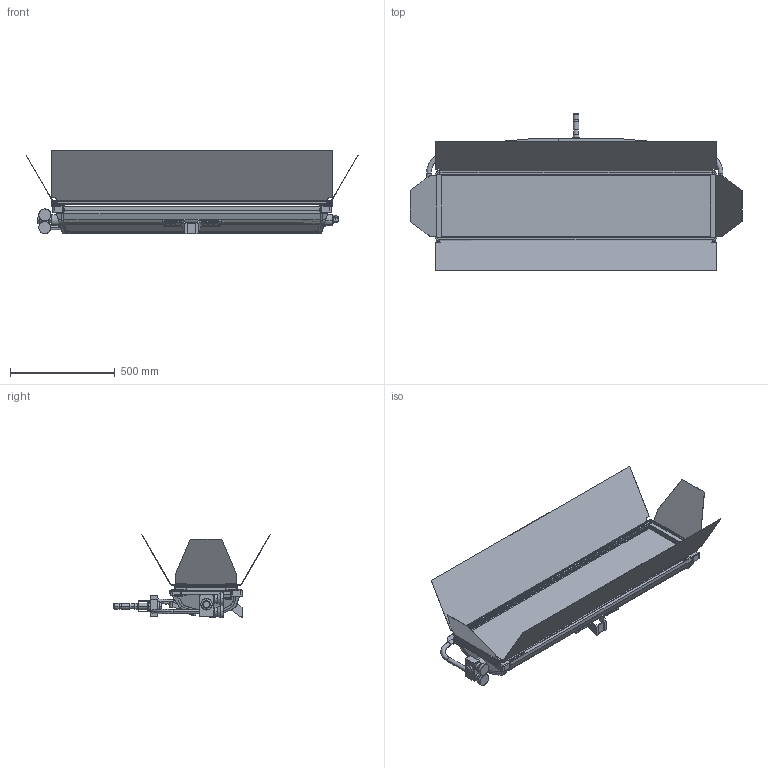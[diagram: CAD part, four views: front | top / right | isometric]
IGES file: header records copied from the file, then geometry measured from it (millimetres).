
Start section: SolidWorks IGES file using analytic representation for surfaces
Global section: file name: L:\32000\4. Serie\S120 reduziert\S120 reduziert_Transfer\S120-C_PO.IGS; native system: SolidWorks 2016; preprocessor: SolidWorks 2016; author: huttner; date: 160830.155526; units: millimetre
Bounding box: 1587.17 x 749.65 x 399.33 mm (x, y, z)
Surface area: 3709064.6 mm2 (no closed solid volume)
Topology: 0 solids, 0 shells, 2620 faces, 25586 edges, 25583 vertices
Faces by surface type: bspline 1679, revolution 941
